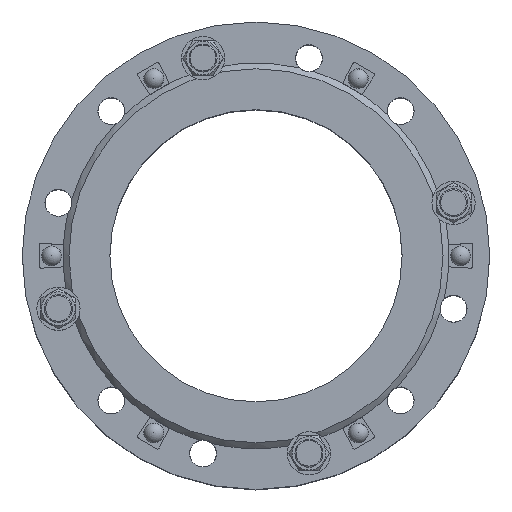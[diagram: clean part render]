
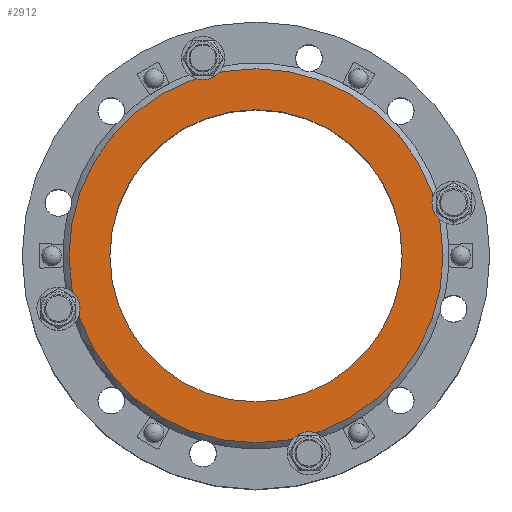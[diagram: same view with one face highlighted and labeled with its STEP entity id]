
A CAD part, top view. The second image highlights one B-rep face of the part: STEP entity #2912.
In plain terms, the highlighted planar face has unit normal (0, 0, 1) as drawn and (0, 0, -1) by its records, which use the part's own axes.
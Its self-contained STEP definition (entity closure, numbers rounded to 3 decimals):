
#2912=ADVANCED_FACE('',(#4399,#4401),#4403,.F.);
#4399=FACE_BOUND('',#4400,.T.);
#4400=EDGE_LOOP('',(#6535));
#4401=FACE_BOUND('',#4402,.T.);
#4402=EDGE_LOOP('',(#6536));
#4403=PLANE('',#4404);
#4404=AXIS2_PLACEMENT_3D('',#4405,#4406,#4407);
#4405=CARTESIAN_POINT('',(0.,0.,0.));
#4406=DIRECTION('',(0.,0.,1.));
#4407=DIRECTION('',(-1.,0.,0.));
#6535=ORIENTED_EDGE('',*,*,#7367,.F.);
#6536=ORIENTED_EDGE('',*,*,#7479,.T.);
#7367=EDGE_CURVE('',#8378,#8378,#8379,.T.);
#7479=EDGE_CURVE('',#8552,#8552,#8553,.T.);
#8378=VERTEX_POINT('',#14829);
#8379=CIRCLE('',#14830,160.);
#8552=VERTEX_POINT('',#15265);
#8553=CIRCLE('',#15266,125.);
#14829=CARTESIAN_POINT('',(-160.,0.,0.));
#14830=AXIS2_PLACEMENT_3D('',#14831,#14832,#14833);
#14831=CARTESIAN_POINT('',(0.,0.,0.));
#14832=DIRECTION('',(0.,0.,1.));
#14833=DIRECTION('',(-1.,0.,0.));
#15265=CARTESIAN_POINT('',(-125.,0.,0.));
#15266=AXIS2_PLACEMENT_3D('',#15267,#15268,#15269);
#15267=CARTESIAN_POINT('',(0.,0.,0.));
#15268=DIRECTION('',(0.,0.,1.));
#15269=DIRECTION('',(-1.,0.,0.));
